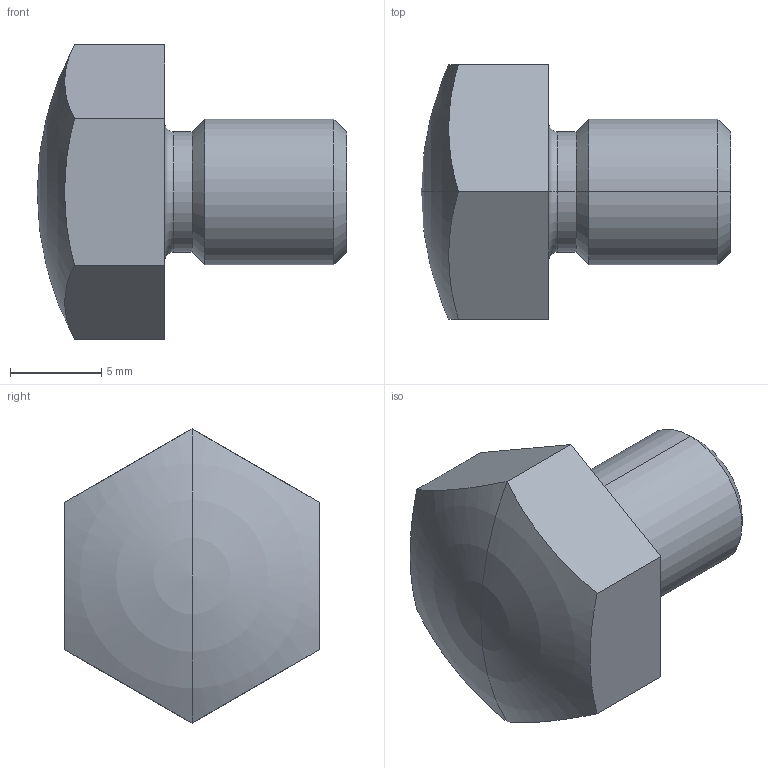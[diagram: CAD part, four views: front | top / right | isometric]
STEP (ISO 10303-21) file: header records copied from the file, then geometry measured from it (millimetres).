
FILE_DESCRIPTION((''),'2;1');
FILE_NAME('BS-82','2011-08-19T',('chad.steele'),(''),'PRO/ENGINEER BY PARAMETRIC TECHNOLOGY CORPORATION, 2010040','PRO/ENGINEER BY PARAMETRIC TECHNOLOGY CORPORATION, 2010040','');
FILE_SCHEMA(('CONFIG_CONTROL_DESIGN'));
Length unit declared in the file: millimetre
Products named in the file (1): BS-82
Bounding box: 17 x 14 x 16.17 mm (x, y, z)
Volume: 1515.8 mm3; surface area: 856.7 mm2
Topology: 1 solids, 1 shells, 20 faces, 44 edges, 25 vertices
Faces by surface type: plane 8, cone 4, cylinder 4, torus 2, sphere 2
Entity records: 574 total; most frequent: DIRECTION 104, CARTESIAN_POINT 87, ORIENTED_EDGE 84, AXIS2_PLACEMENT_3D 42, EDGE_CURVE 42, VERTEX_POINT 25, CIRCLE 22, EDGE_LOOP 21
